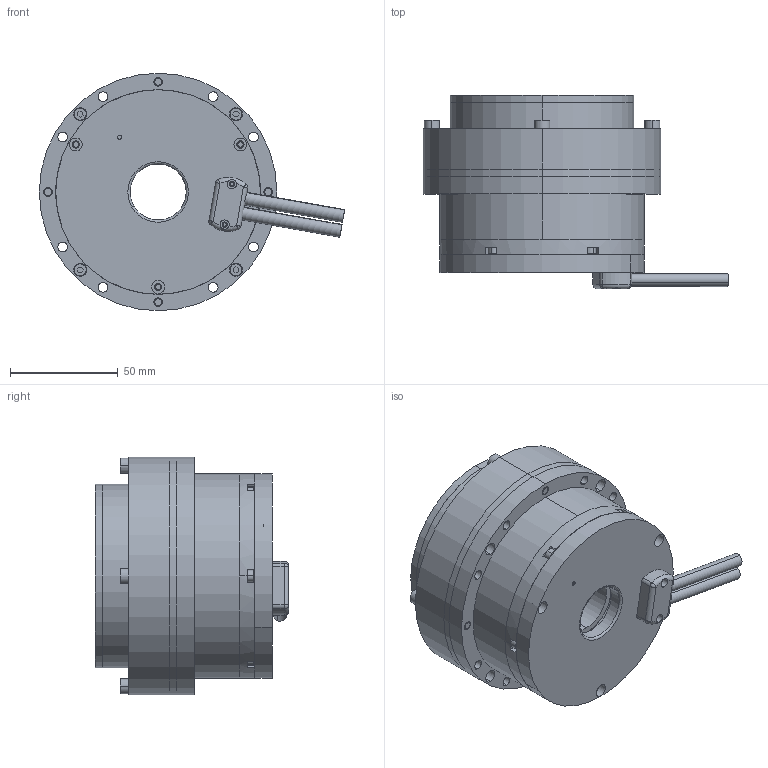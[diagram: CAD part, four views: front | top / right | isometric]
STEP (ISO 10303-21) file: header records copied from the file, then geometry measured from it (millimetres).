
FILE_DESCRIPTION (( 'STEP AP203' ), '1' );
FILE_NAME ('MT-RH25-N-V1.STEP', '2024-08-03T09:56:33', ( '' ), ( '' ), 'SwSTEP 2.0', 'SolidWorks 2020', '' );
FILE_SCHEMA (( 'CONFIG_CONTROL_DESIGN' ));
Length unit declared in the file: millimetre
Products named in the file (15): M3X8-12.9_GB.T 70.1    -V1; M2x5+3-V1; MT-RH25-1007-V1_Default<偌樓馱>; MT-RH25-1010-V1_Default<偌樓馱>; 25疏楷汜ん蟀諉粣-V1; WHS-25-100-I_2-V1; MT-RH25-1002-V1; MT-RH25-N-V1; WHS-25-100-I_3-V1; WHS-25-100-I_1-V1_11; MT-RH25-1001-V1; 盄擢_Default<偌樓馱>; M4X30-12.9_GB.T 70.1-V1; MT-RH25-1004N-V1; MT-RH25-1003-V1
Assembly tree (27 placements, depth 2):
  MT-RH25-N-V1
    WHS-25-100-I_1-V1_11
    WHS-25-100-I_2-V1
    WHS-25-100-I_3-V1
    25疏楷汜ん蟀諉粣-V1
    MT-RH25-1002-V1
    MT-RH25-1003-V1
    MT-RH25-1004N-V1
    M2x5+3-V1
    M4X30-12.9_GB.T 70.1-V1  x4
    M3X8-12.9_GB.T 70.1    -V1  x10
    MT-RH25-1007-V1_Default<偌樓馱>
    MT-RH25-1010-V1_Default<偌樓馱>
    MT-RH25-1001-V1
    盄擢_Default<偌樓馱>  x2
Bounding box: 141.4 x 89.5 x 110 mm (x, y, z)
Volume: 380649.8 mm3; surface area: 176296.3 mm2
Topology: 28 solids, 28 shells, 959 faces, 2370 edges, 1506 vertices
Faces by surface type: cylinder 569, plane 282, cone 87, torus 17, sphere 4
Entity records: 26322 total; most frequent: DIRECTION 4689, CARTESIAN_POINT 4139, ORIENTED_EDGE 3864, AXIS2_PLACEMENT_3D 1954, EDGE_CURVE 1932, VERTEX_POINT 1262, CIRCLE 1137, EDGE_LOOP 1112
